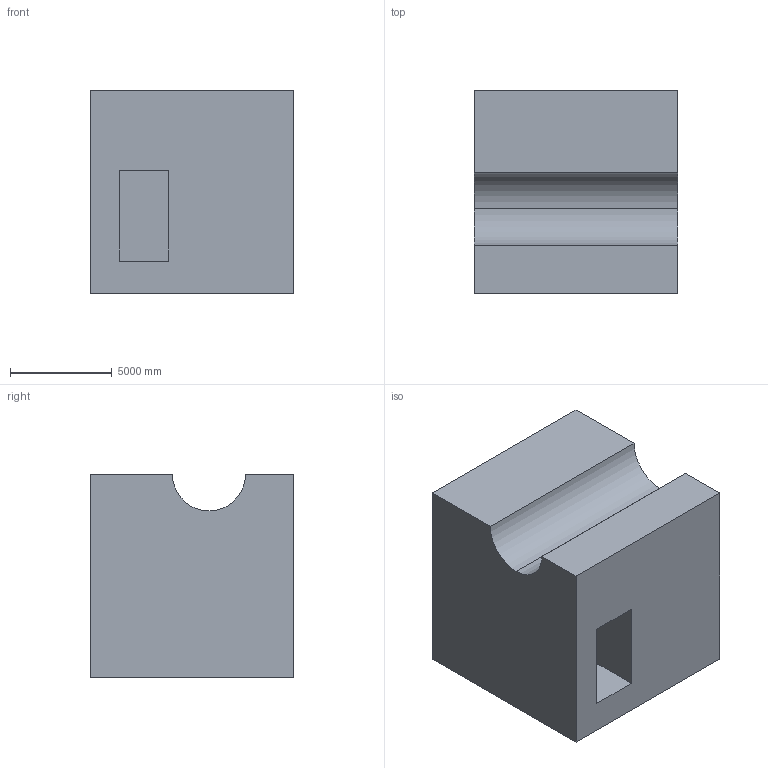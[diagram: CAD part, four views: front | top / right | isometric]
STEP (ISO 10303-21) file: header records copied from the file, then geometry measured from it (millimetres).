
FILE_DESCRIPTION (( 'STEP AP203' ), '1' );
FILE_NAME ('1181.STEP', '2022-08-18T13:04:51', ( 'user' ), ( '' ), 'SwSTEP 2.0', 'SolidWorks 2021', '' );
FILE_SCHEMA (( 'CONFIG_CONTROL_DESIGN' ));
Length unit declared in the file: centimetre
Products named in the file (1): 1181
Bounding box: 10000 x 10000 x 10000 mm (x, y, z)
Volume: 912222419057.1 mm3; surface area: 657290035.5 mm2
Topology: 1 solids, 1 shells, 14 faces, 33 edges, 22 vertices
Faces by surface type: plane 12, cylinder 2
Entity records: 478 total; most frequent: CARTESIAN_POINT 70, DIRECTION 67, ORIENTED_EDGE 66, EDGE_CURVE 33, VECTOR 29, LINE 29, VERTEX_POINT 22, AXIS2_PLACEMENT_3D 19
